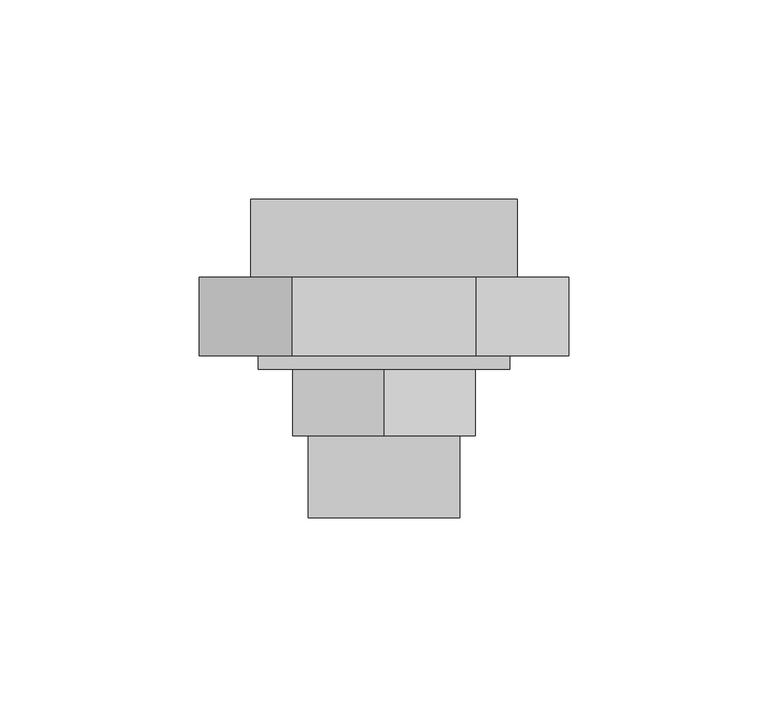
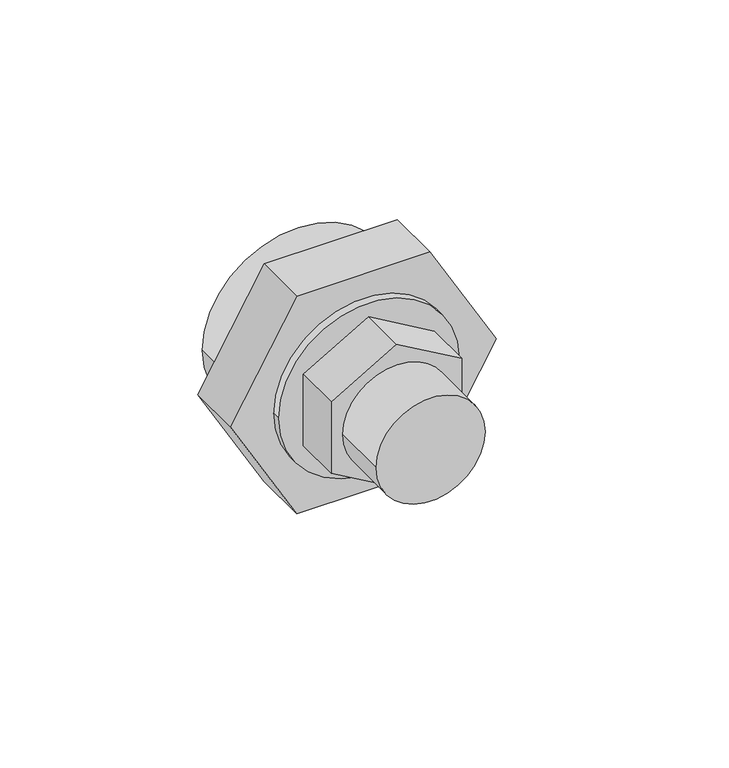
"""IFC4 building model written with IfcOpenShell, lengths in millimetres: pipe fitting geometry, EGB_VASEN_ PPR_Enlace desmontable rosca macho WXR103 : Enlace desmontable rosca macho WXR103."""

from ifc_helpers import new_model, si_unit, point, frame, origin, origin_2d, place, context, project, spatial, polyline, circle_curve, trimmed, segment, composite_curve, outline, extrude, source, transform, mapped, element, save


def pipe_fitting_72541a15(model_context):
    return source(origin(), model_context, "Body", "SweptSolid", [
        extrude(outline(polyline([(-13.1982272, -22.86), (-26.3964543, 0.0), (-13.1982272, 22.86), (13.1982272, 22.86), (26.3964543, 0.0), (13.1982272, -22.86), (-13.1982272, -22.86)])), frame((0.0, -39.0879167, 0.0), z_axis=(0.0, 1.0, 0.0), x_axis=(0.0, 0.0, 1.0)), (0.0, 0.0, 1.0), 16.6666667),
        extrude(outline(polyline([(0.0, 46.4189616), (40.2, 23.2094808), (40.2, -23.2094808), (0.0, -46.4189616), (-40.2, -23.2094808), (-40.2, 23.2094808), (0.0, 46.4189616)])), frame((0.0, -19.05375, 0.0), z_axis=(0.0, 1.0, 0.0), x_axis=(0.0, 0.0, 1.0)), (0.0, 0.0, 1.0), 19.6666667),
        extrude(outline(composite_curve([segment(trimmed(circle_curve(origin_2d(), 19.05), [point((0.0, -19.05))], [point((0.0, 19.05))], False, "CARTESIAN"), True, "CONTINUOUS"), segment(trimmed(circle_curve(origin_2d(), 19.05), [point((0.0, 19.05))], [point((0.0, -19.05))], False, "CARTESIAN"), True, "CONTINUOUS")], self_intersect=False)), frame((0.0, -59.7204167, 0.0), z_axis=(0.0, 1.0, 0.0), x_axis=(0.0, 0.0, 1.0)), (0.0, 0.0, 1.0), 21.0),
        extrude(outline(composite_curve([segment(trimmed(circle_curve(origin_2d(), 31.53), [point((0.0, -31.53))], [point((0.0, 31.53))], False, "CARTESIAN"), True, "CONTINUOUS"), segment(trimmed(circle_curve(origin_2d(), 31.53), [point((0.0, 31.53))], [point((0.0, -31.53))], False, "CARTESIAN"), True, "CONTINUOUS")], self_intersect=False)), frame((0.0, -22.42125, 0.0), z_axis=(0.0, 1.0, 0.0), x_axis=(0.0, 0.0, 1.0)), (0.0, 0.0, 1.0), 3.3675),
        extrude(outline(composite_curve([segment(trimmed(circle_curve(origin_2d(), 33.5), [point((0.0, -33.5))], [point((0.0, 33.5))], False, "CARTESIAN"), True, "CONTINUOUS"), segment(trimmed(circle_curve(origin_2d(), 33.5), [point((0.0, 33.5))], [point((0.0, -33.5))], False, "CARTESIAN"), True, "CONTINUOUS")], self_intersect=False), holes=[composite_curve([segment(trimmed(circle_curve(origin_2d(), 25.0), [point((0.0, -25.0))], [point((0.0, 25.0))], True, "CARTESIAN"), True, "CONTINUOUS"), segment(trimmed(circle_curve(origin_2d(), 25.0), [point((0.0, 25.0))], [point((0.0, -25.0))], True, "CARTESIAN"), True, "CONTINUOUS")], self_intersect=False)]), frame((0.0, 0.6129167, 0.0), z_axis=(0.0, 1.0, 0.0), x_axis=(0.0, 0.0, 1.0)), (0.0, 0.0, 1.0), 19.6666667),
    ])


if __name__ == "__main__":
    model = new_model("IFC4")
    model_context = context("Model", 3, world=origin())
    ifc_project = project(units=[si_unit("LENGTHUNIT", "METRE", prefix="MILLI")], contexts=[model_context])
    site = spatial("IfcSite", under=ifc_project)
    building = spatial("IfcBuilding", under=site)
    placement = place(None, origin())
    pipe_fitting_shape = pipe_fitting_72541a15(model_context)
    element("IfcPipeFitting", 1, ObjectType="EGB_VASEN_ PPR_Enlace desmontable rosca macho WXR103 : Enlace desmontable rosca macho WXR103", at=placement, inside=building, context=model_context, shape_type="MappedRepresentation", body=[
        mapped(pipe_fitting_shape, transform((0.0, 0.0, 0.0), x_axis=(1.0, 0.0, 0.0), y_axis=(0.0, 1.0, 0.0), z_axis=(0.0, 0.0, 1.0))),
    ])
    save(model, "model.ifc")
